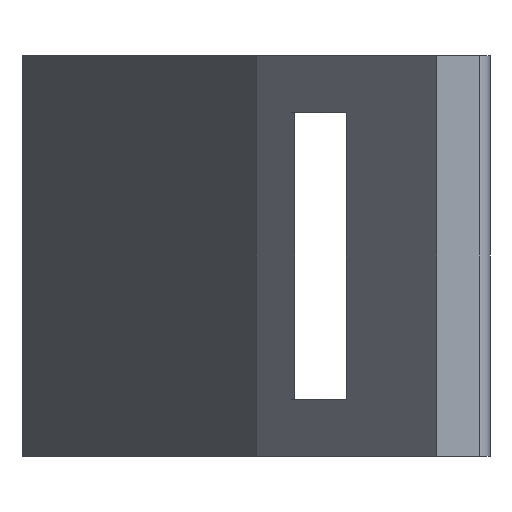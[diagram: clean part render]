
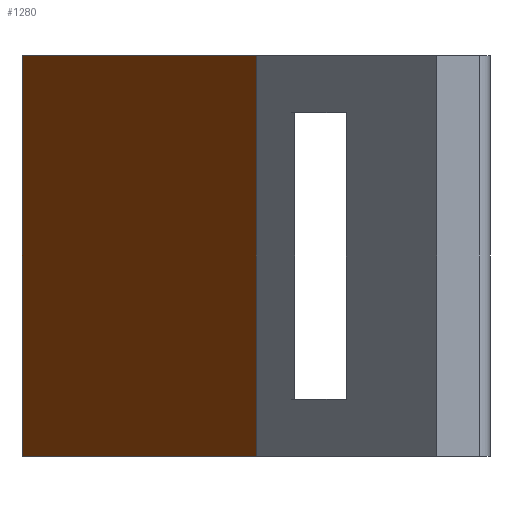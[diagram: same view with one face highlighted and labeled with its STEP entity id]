
A CAD part, left-side view. The second image highlights one B-rep face of the part: STEP entity #1280.
In plain terms, the highlighted planar face has unit normal (-0.432, 0.902, 0).
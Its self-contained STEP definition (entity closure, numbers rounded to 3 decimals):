
#4 = DIRECTION ( 'NONE',  ( -0.902, -0.432, 0. ) ) ;
#69 = ORIENTED_EDGE ( 'NONE', *, *, #702, .T. ) ;
#79 = CARTESIAN_POINT ( 'NONE',  ( 0., -4.704, -9. ) ) ;
#125 = ORIENTED_EDGE ( 'NONE', *, *, #310, .F. ) ;
#134 = EDGE_CURVE ( 'NONE', #1050, #1328, #792, .T. ) ;
#217 = DIRECTION ( 'NONE',  ( -0.902, -0.432, 0. ) ) ;
#270 = EDGE_CURVE ( 'NONE', #384, #1557, #1401, .T. ) ;
#310 = EDGE_CURVE ( 'NONE', #1328, #1557, #822, .T. ) ;
#320 = DIRECTION ( 'NONE',  ( 0., 0., 1. ) ) ;
#343 = VECTOR ( 'NONE', #320, 1000. ) ;
#379 = CARTESIAN_POINT ( 'NONE',  ( 25.627, 7.568, 21. ) ) ;
#384 = VERTEX_POINT ( 'NONE', #1554 ) ;
#478 = AXIS2_PLACEMENT_3D ( 'NONE', #1440, #575, #1312 ) ;
#484 = CARTESIAN_POINT ( 'NONE',  ( 25.627, 7.568, 0. ) ) ;
#539 = ORIENTED_EDGE ( 'NONE', *, *, #270, .T. ) ;
#567 = LINE ( 'NONE', #953, #986 ) ;
#575 = DIRECTION ( 'NONE',  ( -0.432, 0.902, 0. ) ) ;
#699 = FACE_OUTER_BOUND ( 'NONE', #1259, .T. ) ;
#702 = EDGE_CURVE ( 'NONE', #1050, #384, #567, .T. ) ;
#792 = LINE ( 'NONE', #1390, #343 ) ;
#814 = PLANE ( 'NONE',  #478 ) ;
#822 = LINE ( 'NONE', #379, #959 ) ;
#833 = ORIENTED_EDGE ( 'NONE', *, *, #134, .F. ) ;
#953 = CARTESIAN_POINT ( 'NONE',  ( 1.832, -3.827, 0. ) ) ;
#959 = VECTOR ( 'NONE', #4, 1000. ) ;
#986 = VECTOR ( 'NONE', #217, 1000. ) ;
#1050 = VERTEX_POINT ( 'NONE', #484 ) ;
#1061 = VECTOR ( 'NONE', #1163, 1000. ) ;
#1163 = DIRECTION ( 'NONE',  ( 0., 0., 1. ) ) ;
#1259 = EDGE_LOOP ( 'NONE', ( #69, #539, #125, #833 ) ) ;
#1263 = CARTESIAN_POINT ( 'NONE',  ( 0., -4.704, 21. ) ) ;
#1280 = ADVANCED_FACE ( 'NONE', ( #699 ), #814, .T. ) ;
#1312 = DIRECTION ( 'NONE',  ( -0.902, -0.432, 0. ) ) ;
#1328 = VERTEX_POINT ( 'NONE', #1411 ) ;
#1390 = CARTESIAN_POINT ( 'NONE',  ( 25.627, 7.568, -9. ) ) ;
#1401 = LINE ( 'NONE', #79, #1061 ) ;
#1411 = CARTESIAN_POINT ( 'NONE',  ( 25.627, 7.568, 21. ) ) ;
#1440 = CARTESIAN_POINT ( 'NONE',  ( 25.627, 7.568, -9. ) ) ;
#1554 = CARTESIAN_POINT ( 'NONE',  ( 0., -4.704, 0. ) ) ;
#1557 = VERTEX_POINT ( 'NONE', #1263 ) ;
